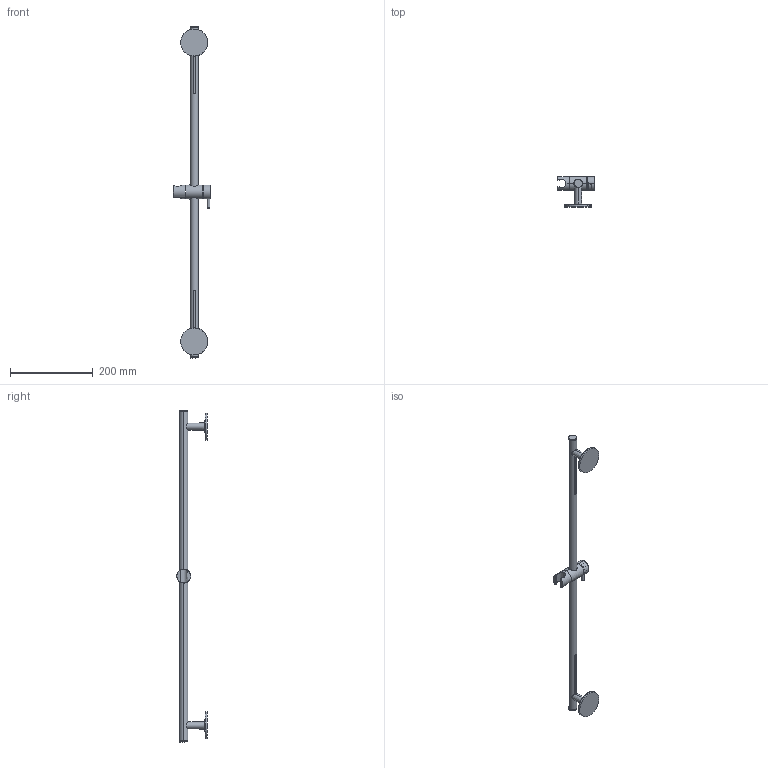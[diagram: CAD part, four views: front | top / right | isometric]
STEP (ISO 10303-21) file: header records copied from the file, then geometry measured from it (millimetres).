
FILE_DESCRIPTION (( 'STEP AP203' ), '1' );
FILE_NAME ('ASO11.STEP', '2019-07-29T13:20:54', ( '' ), ( '' ), 'SwSTEP 2.0', 'SolidWorks 2014', '' );
FILE_SCHEMA (( 'CONFIG_CONTROL_DESIGN' ));
Length unit declared in the file: millimetre
Products named in the file (1): ASO11
Bounding box: 89.4 x 73.75 x 800 mm (x, y, z)
Surface area: 80917.8 mm2 (no closed solid volume)
Topology: 0 solids, 20 shells, 69 faces, 232 edges, 172 vertices
Faces by surface type: bspline 28, cylinder 22, plane 10, cone 9
Entity records: 7393 total; most frequent: CARTESIAN_POINT 5540, ORIENTED_EDGE 346, DIRECTION 337, EDGE_CURVE 229, VERTEX_POINT 172, AXIS2_PLACEMENT_3D 145, CIRCLE 103, B_SPLINE_CURVE_WITH_KNOTS 75
